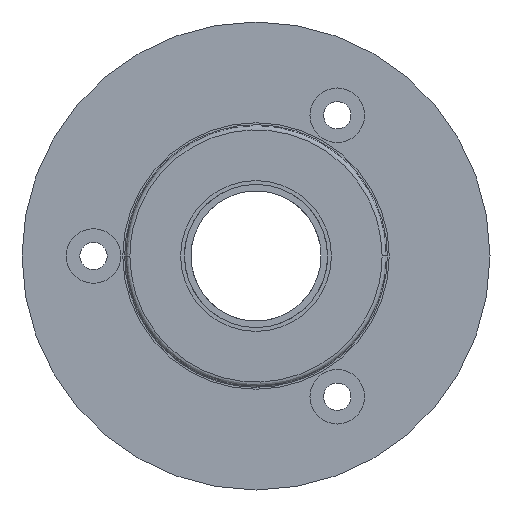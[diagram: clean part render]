
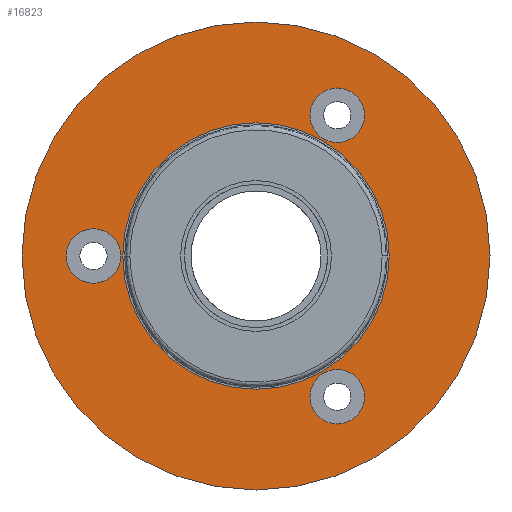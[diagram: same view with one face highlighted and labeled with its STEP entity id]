
A CAD part, left-side view. The second image highlights one B-rep face of the part: STEP entity #16823.
In plain terms, the highlighted planar face has unit normal (-1, 0, 0).
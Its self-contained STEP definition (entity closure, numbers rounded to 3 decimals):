
#875 = ORIENTED_EDGE ( 'NONE', *, *, #47258, .T. ) ;
#2531 = CARTESIAN_POINT ( 'NONE',  ( 2.8, 0., 0. ) ) ;
#3327 = ORIENTED_EDGE ( 'NONE', *, *, #26882, .T. ) ;
#3610 = CARTESIAN_POINT ( 'NONE',  ( 2.8, -8.35, -10.825 ) ) ;
#4487 = VERTEX_POINT ( 'NONE', #9737 ) ;
#5170 = CARTESIAN_POINT ( 'NONE',  ( 2.8, 7.5, 0. ) ) ;
#5541 = VERTEX_POINT ( 'NONE', #11874 ) ;
#6024 = ORIENTED_EDGE ( 'NONE', *, *, #8877, .T. ) ;
#8877 = EDGE_CURVE ( 'NONE', #47094, #27990, #39466, .T. ) ;
#9737 = CARTESIAN_POINT ( 'NONE',  ( 2.8, -4.15, 10.825 ) ) ;
#11594 = CARTESIAN_POINT ( 'NONE',  ( 2.8, 12.5, 0. ) ) ;
#11629 = VERTEX_POINT ( 'NONE', #31825 ) ;
#11874 = CARTESIAN_POINT ( 'NONE',  ( 2.8, 10.4, 0. ) ) ;
#12819 = DIRECTION ( 'NONE',  ( 1., 0., 0. ) ) ;
#13810 = CARTESIAN_POINT ( 'NONE',  ( 2.8, 0., 0. ) ) ;
#13853 = CIRCLE ( 'NONE', #38581, 2.1 ) ;
#14541 = DIRECTION ( 'NONE',  ( 0., 1., 0. ) ) ;
#14581 = VERTEX_POINT ( 'NONE', #33616 ) ;
#15240 = CARTESIAN_POINT ( 'NONE',  ( 2.8, -6.25, -10.825 ) ) ;
#15591 = FACE_OUTER_BOUND ( 'NONE', #46390, .T. ) ;
#16233 = DIRECTION ( 'NONE',  ( 0., 1., 0. ) ) ;
#16339 = CIRCLE ( 'NONE', #43843, 18. ) ;
#16823 = ADVANCED_FACE ( 'NONE', ( #15591, #25735, #19962, #30757, #22865 ), #19719, .T. ) ;
#17157 = EDGE_CURVE ( 'NONE', #43496, #33643, #16339, .T. ) ;
#17347 = DIRECTION ( 'NONE',  ( 0., -1., 0. ) ) ;
#17482 = DIRECTION ( 'NONE',  ( 0., -1., 0. ) ) ;
#17982 = ORIENTED_EDGE ( 'NONE', *, *, #31980, .T. ) ;
#18549 = ORIENTED_EDGE ( 'NONE', *, *, #37622, .T. ) ;
#18892 = DIRECTION ( 'NONE',  ( 0., -1., 0. ) ) ;
#19331 = ORIENTED_EDGE ( 'NONE', *, *, #17157, .T. ) ;
#19407 = CIRCLE ( 'NONE', #24049, 2.1 ) ;
#19719 = PLANE ( 'NONE',  #37637 ) ;
#19799 = DIRECTION ( 'NONE',  ( 1., 0., 0. ) ) ;
#19906 = DIRECTION ( 'NONE',  ( 0., -1., 0. ) ) ;
#19962 = FACE_BOUND ( 'NONE', #23100, .T. ) ;
#20110 = EDGE_LOOP ( 'NONE', ( #6024, #17982 ) ) ;
#21265 = CIRCLE ( 'NONE', #33069, 2.1 ) ;
#22531 = CIRCLE ( 'NONE', #38242, 7.5 ) ;
#22863 = VERTEX_POINT ( 'NONE', #3610 ) ;
#22865 = FACE_BOUND ( 'NONE', #57294, .T. ) ;
#23100 = EDGE_LOOP ( 'NONE', ( #25612, #875 ) ) ;
#24049 = AXIS2_PLACEMENT_3D ( 'NONE', #31823, #12819, #36493 ) ;
#25612 = ORIENTED_EDGE ( 'NONE', *, *, #29026, .T. ) ;
#25735 = FACE_BOUND ( 'NONE', #20110, .T. ) ;
#26882 = EDGE_CURVE ( 'NONE', #22863, #14581, #40197, .T. ) ;
#27167 = DIRECTION ( 'NONE',  ( 1., 0., 0. ) ) ;
#27888 = AXIS2_PLACEMENT_3D ( 'NONE', #32989, #33199, #51875 ) ;
#27990 = VERTEX_POINT ( 'NONE', #57805 ) ;
#28591 = DIRECTION ( 'NONE',  ( -1., 0., 0. ) ) ;
#29026 = EDGE_CURVE ( 'NONE', #11629, #4487, #21265, .T. ) ;
#30617 = ORIENTED_EDGE ( 'NONE', *, *, #45886, .T. ) ;
#30737 = EDGE_CURVE ( 'NONE', #5541, #56767, #13853, .T. ) ;
#30757 = FACE_BOUND ( 'NONE', #51103, .T. ) ;
#31499 = DIRECTION ( 'NONE',  ( 1., 0., 0. ) ) ;
#31809 = DIRECTION ( 'NONE',  ( 0., -1., 0. ) ) ;
#31823 = CARTESIAN_POINT ( 'NONE',  ( 2.8, -6.25, 10.825 ) ) ;
#31825 = CARTESIAN_POINT ( 'NONE',  ( 2.8, -8.35, 10.825 ) ) ;
#31980 = EDGE_CURVE ( 'NONE', #27990, #47094, #22531, .T. ) ;
#32989 = CARTESIAN_POINT ( 'NONE',  ( 2.8, 0., 0. ) ) ;
#33069 = AXIS2_PLACEMENT_3D ( 'NONE', #45419, #27167, #17482 ) ;
#33199 = DIRECTION ( 'NONE',  ( 1., 0., 0. ) ) ;
#33616 = CARTESIAN_POINT ( 'NONE',  ( 2.8, -4.15, -10.825 ) ) ;
#33643 = VERTEX_POINT ( 'NONE', #33985 ) ;
#33815 = AXIS2_PLACEMENT_3D ( 'NONE', #45189, #50079, #31809 ) ;
#33985 = CARTESIAN_POINT ( 'NONE',  ( 2.8, 18., 0. ) ) ;
#35472 = CIRCLE ( 'NONE', #43715, 2.1 ) ;
#36493 = DIRECTION ( 'NONE',  ( 0., -1., 0. ) ) ;
#37470 = EDGE_CURVE ( 'NONE', #56767, #5541, #48014, .T. ) ;
#37620 = CARTESIAN_POINT ( 'NONE',  ( 2.8, 14.6, 0. ) ) ;
#37622 = EDGE_CURVE ( 'NONE', #33643, #43496, #58200, .T. ) ;
#37637 = AXIS2_PLACEMENT_3D ( 'NONE', #52151, #28591, #18892 ) ;
#38242 = AXIS2_PLACEMENT_3D ( 'NONE', #56776, #19799, #14541 ) ;
#38581 = AXIS2_PLACEMENT_3D ( 'NONE', #11594, #52790, #43800 ) ;
#38794 = CARTESIAN_POINT ( 'NONE',  ( 2.8, -18., 0. ) ) ;
#39466 = CIRCLE ( 'NONE', #27888, 7.5 ) ;
#39689 = ORIENTED_EDGE ( 'NONE', *, *, #37470, .T. ) ;
#39713 = DIRECTION ( 'NONE',  ( -1., 0., 0. ) ) ;
#40197 = CIRCLE ( 'NONE', #51660, 2.1 ) ;
#41153 = AXIS2_PLACEMENT_3D ( 'NONE', #13810, #56012, #46212 ) ;
#43496 = VERTEX_POINT ( 'NONE', #38794 ) ;
#43715 = AXIS2_PLACEMENT_3D ( 'NONE', #15240, #47657, #19906 ) ;
#43800 = DIRECTION ( 'NONE',  ( 0., -1., 0. ) ) ;
#43843 = AXIS2_PLACEMENT_3D ( 'NONE', #2531, #39713, #16233 ) ;
#45086 = CARTESIAN_POINT ( 'NONE',  ( 2.8, -6.25, -10.825 ) ) ;
#45189 = CARTESIAN_POINT ( 'NONE',  ( 2.8, 12.5, 0. ) ) ;
#45419 = CARTESIAN_POINT ( 'NONE',  ( 2.8, -6.25, 10.825 ) ) ;
#45886 = EDGE_CURVE ( 'NONE', #14581, #22863, #35472, .T. ) ;
#46212 = DIRECTION ( 'NONE',  ( 0., 1., 0. ) ) ;
#46390 = EDGE_LOOP ( 'NONE', ( #18549, #19331 ) ) ;
#47094 = VERTEX_POINT ( 'NONE', #5170 ) ;
#47258 = EDGE_CURVE ( 'NONE', #4487, #11629, #19407, .T. ) ;
#47657 = DIRECTION ( 'NONE',  ( 1., 0., 0. ) ) ;
#48014 = CIRCLE ( 'NONE', #33815, 2.1 ) ;
#50079 = DIRECTION ( 'NONE',  ( 1., 0., 0. ) ) ;
#51103 = EDGE_LOOP ( 'NONE', ( #3327, #30617 ) ) ;
#51660 = AXIS2_PLACEMENT_3D ( 'NONE', #45086, #31499, #17347 ) ;
#51875 = DIRECTION ( 'NONE',  ( 0., 1., 0. ) ) ;
#52151 = CARTESIAN_POINT ( 'NONE',  ( 2.8, 7.5, 0. ) ) ;
#52790 = DIRECTION ( 'NONE',  ( 1., 0., 0. ) ) ;
#53472 = ORIENTED_EDGE ( 'NONE', *, *, #30737, .T. ) ;
#56012 = DIRECTION ( 'NONE',  ( -1., 0., 0. ) ) ;
#56767 = VERTEX_POINT ( 'NONE', #37620 ) ;
#56776 = CARTESIAN_POINT ( 'NONE',  ( 2.8, 0., 0. ) ) ;
#57294 = EDGE_LOOP ( 'NONE', ( #53472, #39689 ) ) ;
#57805 = CARTESIAN_POINT ( 'NONE',  ( 2.8, -7.5, 0. ) ) ;
#58200 = CIRCLE ( 'NONE', #41153, 18. ) ;
